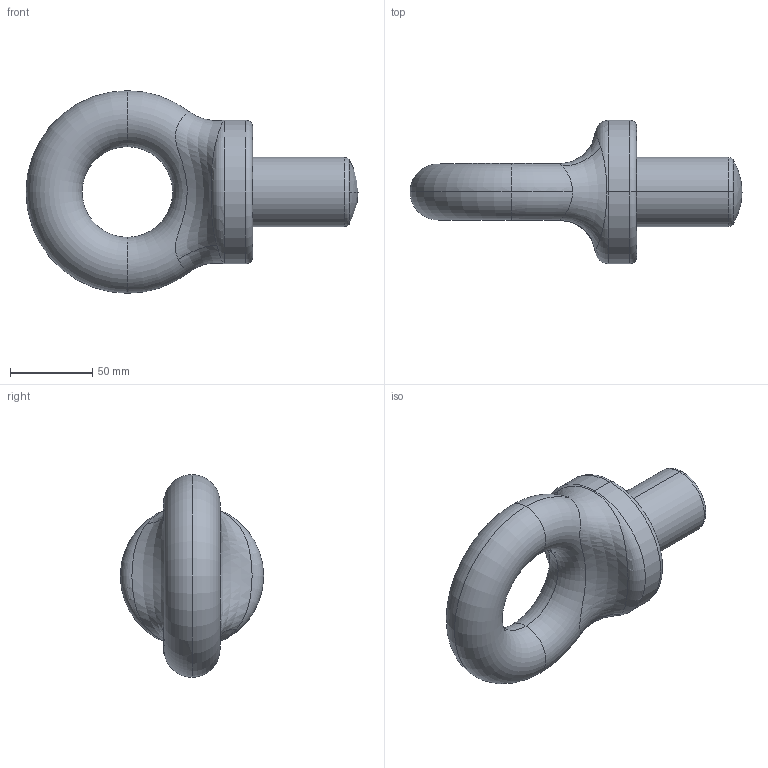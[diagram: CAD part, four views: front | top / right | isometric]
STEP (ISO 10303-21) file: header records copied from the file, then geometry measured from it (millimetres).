
FILE_DESCRIPTION (( 'STEP AP203' ), '1' );
FILE_NAME ('EBB1500.STEP', '2010-01-11T00:43:55', ( ' ' ), ( ' ' ), 'SwSTEP 2.0', 'SolidWorks 2003240', '' );
FILE_SCHEMA (( 'CONFIG_CONTROL_DESIGN' ));
Length unit declared in the file: millimetre
Products named in the file (1): EBB1500
Bounding box: 201.5 x 87 x 123 mm (x, y, z)
Volume: 490562.4 mm3; surface area: 49415.3 mm2
Topology: 1 solids, 1 shells, 219 faces, 585 edges, 387 vertices
Faces by surface type: plane 131, bspline 50, torus 32, cylinder 4, sphere 2
Entity records: 25188 total; most frequent: CARTESIAN_POINT 20483, ORIENTED_EDGE 1170, DIRECTION 592, EDGE_CURVE 585, VERTEX_POINT 387, B_SPLINE_CURVE_WITH_KNOTS 368, EDGE_LOOP 240, FACE_OUTER_BOUND 219
